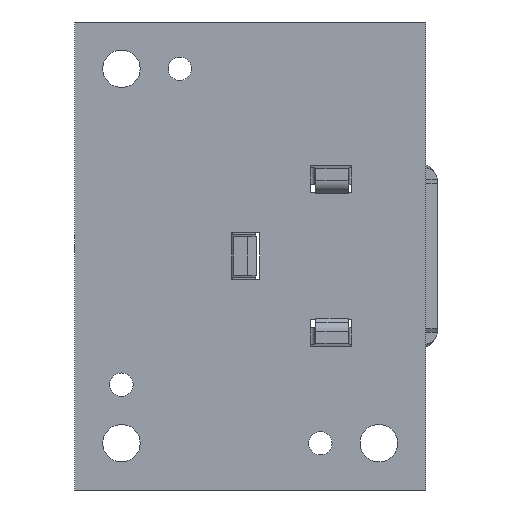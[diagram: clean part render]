
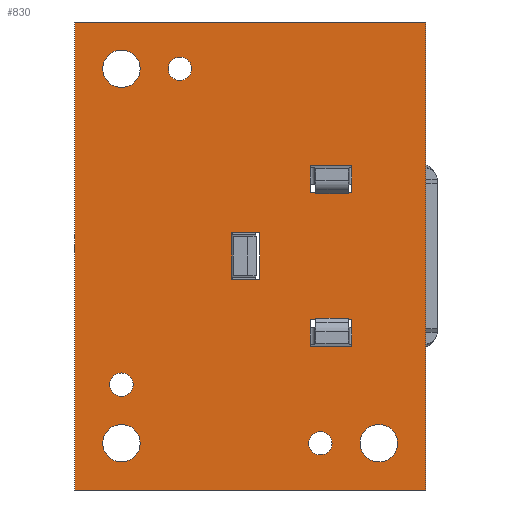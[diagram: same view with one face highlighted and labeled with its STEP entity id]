
A CAD part, front view. The second image highlights one B-rep face of the part: STEP entity #830.
In plain terms, the highlighted planar face has unit normal (0, -1, 0).
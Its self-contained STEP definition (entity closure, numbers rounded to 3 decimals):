
#24=DIRECTION('',(0.,0.,1.));
#25=VECTOR('',#24,40.);
#26=CARTESIAN_POINT('',(-15.,0.,-20.));
#27=LINE('',#26,#25);
#32=DIRECTION('',(1.,0.,0.));
#33=VECTOR('',#32,30.);
#34=CARTESIAN_POINT('',(-15.,0.,20.));
#35=LINE('',#34,#33);
#39=DIRECTION('',(0.,0.,-1.));
#40=VECTOR('',#39,40.);
#41=CARTESIAN_POINT('',(15.,0.,20.));
#42=LINE('',#41,#40);
#46=DIRECTION('',(-1.,0.,0.));
#47=VECTOR('',#46,30.);
#48=CARTESIAN_POINT('',(15.,0.,-20.));
#49=LINE('',#48,#47);
#53=CARTESIAN_POINT('',(-11.,0.,-16.));
#54=DIRECTION('',(0.,1.,0.));
#55=DIRECTION('',(0.,0.,1.));
#56=AXIS2_PLACEMENT_3D('',#53,#54,#55);
#61=CARTESIAN_POINT('',(-11.,0.,-16.));
#62=DIRECTION('',(0.,1.,0.));
#63=DIRECTION('',(0.,0.,-1.));
#64=AXIS2_PLACEMENT_3D('',#61,#62,#63);
#69=CARTESIAN_POINT('',(-11.,0.,-11.));
#70=DIRECTION('',(0.,1.,0.));
#71=DIRECTION('',(0.,0.,1.));
#72=AXIS2_PLACEMENT_3D('',#69,#70,#71);
#77=CARTESIAN_POINT('',(-11.,0.,-11.));
#78=DIRECTION('',(0.,1.,0.));
#79=DIRECTION('',(0.,0.,-1.));
#80=AXIS2_PLACEMENT_3D('',#77,#78,#79);
#85=CARTESIAN_POINT('',(-11.,0.,16.));
#86=DIRECTION('',(0.,1.,0.));
#87=DIRECTION('',(-1.,0.,0.));
#88=AXIS2_PLACEMENT_3D('',#85,#86,#87);
#93=CARTESIAN_POINT('',(-11.,0.,16.));
#94=DIRECTION('',(0.,1.,0.));
#95=DIRECTION('',(1.,0.,0.));
#96=AXIS2_PLACEMENT_3D('',#93,#94,#95);
#101=CARTESIAN_POINT('',(-6.,0.,16.));
#102=DIRECTION('',(0.,1.,0.));
#103=DIRECTION('',(-1.,0.,0.));
#104=AXIS2_PLACEMENT_3D('',#101,#102,#103);
#109=CARTESIAN_POINT('',(-6.,0.,16.));
#110=DIRECTION('',(0.,1.,0.));
#111=DIRECTION('',(1.,0.,0.));
#112=AXIS2_PLACEMENT_3D('',#109,#110,#111);
#117=CARTESIAN_POINT('',(11.,0.,-16.));
#118=DIRECTION('',(0.,1.,0.));
#119=DIRECTION('',(-1.,0.,0.));
#120=AXIS2_PLACEMENT_3D('',#117,#118,#119);
#125=CARTESIAN_POINT('',(11.,0.,-16.));
#126=DIRECTION('',(0.,1.,0.));
#127=DIRECTION('',(1.,0.,0.));
#128=AXIS2_PLACEMENT_3D('',#125,#126,#127);
#133=CARTESIAN_POINT('',(6.,0.,-16.));
#134=DIRECTION('',(0.,1.,0.));
#135=DIRECTION('',(-1.,0.,0.));
#136=AXIS2_PLACEMENT_3D('',#133,#134,#135);
#141=CARTESIAN_POINT('',(6.,0.,-16.));
#142=DIRECTION('',(0.,1.,0.));
#143=DIRECTION('',(1.,0.,0.));
#144=AXIS2_PLACEMENT_3D('',#141,#142,#143);
#149=DIRECTION('',(-1.,0.,0.));
#150=VECTOR('',#149,3.55);
#151=CARTESIAN_POINT('',(8.685,0.,-7.705));
#152=LINE('',#151,#150);
#156=DIRECTION('',(0.,0.,-1.));
#157=VECTOR('',#156,2.25);
#158=CARTESIAN_POINT('',(8.685,0.,-5.455));
#159=LINE('',#158,#157);
#163=DIRECTION('',(1.,0.,0.));
#164=VECTOR('',#163,3.55);
#165=CARTESIAN_POINT('',(5.135,0.,-5.455));
#166=LINE('',#165,#164);
#170=DIRECTION('',(0.,0.,1.));
#171=VECTOR('',#170,2.25);
#172=CARTESIAN_POINT('',(5.135,0.,-7.705));
#173=LINE('',#172,#171);
#177=DIRECTION('',(-1.,0.,0.));
#178=VECTOR('',#177,3.55);
#179=CARTESIAN_POINT('',(8.685,0.,5.455));
#180=LINE('',#179,#178);
#184=DIRECTION('',(0.,0.,-1.));
#185=VECTOR('',#184,2.25);
#186=CARTESIAN_POINT('',(8.685,0.,7.705));
#187=LINE('',#186,#185);
#191=DIRECTION('',(1.,0.,0.));
#192=VECTOR('',#191,3.55);
#193=CARTESIAN_POINT('',(5.135,0.,7.705));
#194=LINE('',#193,#192);
#198=DIRECTION('',(0.,0.,1.));
#199=VECTOR('',#198,2.25);
#200=CARTESIAN_POINT('',(5.135,0.,5.455));
#201=LINE('',#200,#199);
#205=DIRECTION('',(-1.,0.,0.));
#206=VECTOR('',#205,2.4);
#207=CARTESIAN_POINT('',(0.83,0.,-2.));
#208=LINE('',#207,#206);
#212=DIRECTION('',(0.,0.,-1.));
#213=VECTOR('',#212,4.);
#214=CARTESIAN_POINT('',(0.83,0.,2.));
#215=LINE('',#214,#213);
#219=DIRECTION('',(1.,0.,0.));
#220=VECTOR('',#219,2.4);
#221=CARTESIAN_POINT('',(-1.57,0.,2.));
#222=LINE('',#221,#220);
#226=DIRECTION('',(0.,0.,1.));
#227=VECTOR('',#226,4.);
#228=CARTESIAN_POINT('',(-1.57,0.,-2.));
#229=LINE('',#228,#227);
#637=CARTESIAN_POINT('',(-15.,0.,-20.));
#638=CARTESIAN_POINT('',(-15.,0.,20.));
#639=VERTEX_POINT('',#637);
#640=VERTEX_POINT('',#638);
#641=CARTESIAN_POINT('',(15.,0.,20.));
#642=VERTEX_POINT('',#641);
#643=CARTESIAN_POINT('',(15.,0.,-20.));
#644=VERTEX_POINT('',#643);
#653=CARTESIAN_POINT('',(-12.6,0.,16.));
#654=CARTESIAN_POINT('',(-9.4,0.,16.));
#655=VERTEX_POINT('',#653);
#656=VERTEX_POINT('',#654);
#657=CARTESIAN_POINT('',(-7.,0.,16.));
#658=CARTESIAN_POINT('',(-5.,0.,16.));
#659=VERTEX_POINT('',#657);
#660=VERTEX_POINT('',#658);
#661=CARTESIAN_POINT('',(9.4,0.,-16.));
#662=CARTESIAN_POINT('',(12.6,0.,-16.));
#663=VERTEX_POINT('',#661);
#664=VERTEX_POINT('',#662);
#665=CARTESIAN_POINT('',(5.,0.,-16.));
#666=CARTESIAN_POINT('',(7.,0.,-16.));
#667=VERTEX_POINT('',#665);
#668=VERTEX_POINT('',#666);
#685=CARTESIAN_POINT('',(-11.,0.,-14.4));
#686=CARTESIAN_POINT('',(-11.,0.,-17.6));
#687=VERTEX_POINT('',#685);
#688=VERTEX_POINT('',#686);
#689=CARTESIAN_POINT('',(-11.,0.,-10.));
#690=CARTESIAN_POINT('',(-11.,0.,-12.));
#691=VERTEX_POINT('',#689);
#692=VERTEX_POINT('',#690);
#701=CARTESIAN_POINT('',(8.685,0.,-7.705));
#702=CARTESIAN_POINT('',(5.135,0.,-7.705));
#703=VERTEX_POINT('',#701);
#704=VERTEX_POINT('',#702);
#705=CARTESIAN_POINT('',(5.135,0.,-5.455));
#706=VERTEX_POINT('',#705);
#707=CARTESIAN_POINT('',(8.685,0.,-5.455));
#708=VERTEX_POINT('',#707);
#709=CARTESIAN_POINT('',(8.685,0.,5.455));
#710=CARTESIAN_POINT('',(5.135,0.,5.455));
#711=VERTEX_POINT('',#709);
#712=VERTEX_POINT('',#710);
#713=CARTESIAN_POINT('',(5.135,0.,7.705));
#714=VERTEX_POINT('',#713);
#715=CARTESIAN_POINT('',(8.685,0.,7.705));
#716=VERTEX_POINT('',#715);
#717=CARTESIAN_POINT('',(0.83,0.,-2.));
#718=CARTESIAN_POINT('',(-1.57,0.,-2.));
#719=VERTEX_POINT('',#717);
#720=VERTEX_POINT('',#718);
#721=CARTESIAN_POINT('',(-1.57,0.,2.));
#722=VERTEX_POINT('',#721);
#723=CARTESIAN_POINT('',(0.83,0.,2.));
#724=VERTEX_POINT('',#723);
#749=CARTESIAN_POINT('',(0.,0.,0.));
#750=DIRECTION('',(0.,1.,0.));
#751=DIRECTION('',(1.,0.,0.));
#752=AXIS2_PLACEMENT_3D('',#749,#750,#751);
#753=PLANE('',#752);
#755=ORIENTED_EDGE('',*,*,#754,.T.);
#757=ORIENTED_EDGE('',*,*,#756,.T.);
#759=ORIENTED_EDGE('',*,*,#758,.T.);
#761=ORIENTED_EDGE('',*,*,#760,.T.);
#762=EDGE_LOOP('',(#755,#757,#759,#761));
#763=FACE_OUTER_BOUND('',#762,.F.);
#765=ORIENTED_EDGE('',*,*,#764,.F.);
#767=ORIENTED_EDGE('',*,*,#766,.F.);
#768=EDGE_LOOP('',(#765,#767));
#769=FACE_BOUND('',#768,.F.);
#771=ORIENTED_EDGE('',*,*,#770,.F.);
#773=ORIENTED_EDGE('',*,*,#772,.F.);
#774=EDGE_LOOP('',(#771,#773));
#775=FACE_BOUND('',#774,.F.);
#777=ORIENTED_EDGE('',*,*,#776,.F.);
#779=ORIENTED_EDGE('',*,*,#778,.F.);
#780=EDGE_LOOP('',(#777,#779));
#781=FACE_BOUND('',#780,.F.);
#783=ORIENTED_EDGE('',*,*,#782,.F.);
#785=ORIENTED_EDGE('',*,*,#784,.F.);
#786=EDGE_LOOP('',(#783,#785));
#787=FACE_BOUND('',#786,.F.);
#789=ORIENTED_EDGE('',*,*,#788,.F.);
#791=ORIENTED_EDGE('',*,*,#790,.F.);
#792=EDGE_LOOP('',(#789,#791));
#793=FACE_BOUND('',#792,.F.);
#795=ORIENTED_EDGE('',*,*,#794,.F.);
#797=ORIENTED_EDGE('',*,*,#796,.F.);
#798=EDGE_LOOP('',(#795,#797));
#799=FACE_BOUND('',#798,.F.);
#801=ORIENTED_EDGE('',*,*,#800,.F.);
#803=ORIENTED_EDGE('',*,*,#802,.F.);
#805=ORIENTED_EDGE('',*,*,#804,.F.);
#807=ORIENTED_EDGE('',*,*,#806,.F.);
#808=EDGE_LOOP('',(#801,#803,#805,#807));
#809=FACE_BOUND('',#808,.F.);
#811=ORIENTED_EDGE('',*,*,#810,.F.);
#813=ORIENTED_EDGE('',*,*,#812,.F.);
#815=ORIENTED_EDGE('',*,*,#814,.F.);
#817=ORIENTED_EDGE('',*,*,#816,.F.);
#818=EDGE_LOOP('',(#811,#813,#815,#817));
#819=FACE_BOUND('',#818,.F.);
#821=ORIENTED_EDGE('',*,*,#820,.F.);
#823=ORIENTED_EDGE('',*,*,#822,.F.);
#825=ORIENTED_EDGE('',*,*,#824,.F.);
#827=ORIENTED_EDGE('',*,*,#826,.F.);
#828=EDGE_LOOP('',(#821,#823,#825,#827));
#829=FACE_BOUND('',#828,.F.);
#57=CIRCLE('',#56,1.6);
#65=CIRCLE('',#64,1.6);
#73=CIRCLE('',#72,1.);
#81=CIRCLE('',#80,1.);
#89=CIRCLE('',#88,1.6);
#97=CIRCLE('',#96,1.6);
#105=CIRCLE('',#104,1.);
#113=CIRCLE('',#112,1.);
#121=CIRCLE('',#120,1.6);
#129=CIRCLE('',#128,1.6);
#137=CIRCLE('',#136,1.);
#145=CIRCLE('',#144,1.);
#754=EDGE_CURVE('',#639,#640,#27,.T.);
#756=EDGE_CURVE('',#640,#642,#35,.T.);
#758=EDGE_CURVE('',#642,#644,#42,.T.);
#760=EDGE_CURVE('',#644,#639,#49,.T.);
#764=EDGE_CURVE('',#687,#688,#57,.T.);
#766=EDGE_CURVE('',#688,#687,#65,.T.);
#770=EDGE_CURVE('',#691,#692,#73,.T.);
#772=EDGE_CURVE('',#692,#691,#81,.T.);
#776=EDGE_CURVE('',#655,#656,#89,.T.);
#778=EDGE_CURVE('',#656,#655,#97,.T.);
#782=EDGE_CURVE('',#659,#660,#105,.T.);
#784=EDGE_CURVE('',#660,#659,#113,.T.);
#788=EDGE_CURVE('',#663,#664,#121,.T.);
#790=EDGE_CURVE('',#664,#663,#129,.T.);
#794=EDGE_CURVE('',#667,#668,#137,.T.);
#796=EDGE_CURVE('',#668,#667,#145,.T.);
#800=EDGE_CURVE('',#703,#704,#152,.T.);
#802=EDGE_CURVE('',#708,#703,#159,.T.);
#804=EDGE_CURVE('',#706,#708,#166,.T.);
#806=EDGE_CURVE('',#704,#706,#173,.T.);
#810=EDGE_CURVE('',#711,#712,#180,.T.);
#812=EDGE_CURVE('',#716,#711,#187,.T.);
#814=EDGE_CURVE('',#714,#716,#194,.T.);
#816=EDGE_CURVE('',#712,#714,#201,.T.);
#820=EDGE_CURVE('',#719,#720,#208,.T.);
#822=EDGE_CURVE('',#724,#719,#215,.T.);
#824=EDGE_CURVE('',#722,#724,#222,.T.);
#826=EDGE_CURVE('',#720,#722,#229,.T.);
#830=ADVANCED_FACE('',(#763,#769,#775,#781,#787,#793,#799,#809,#819,#829),#753,
.F.);
